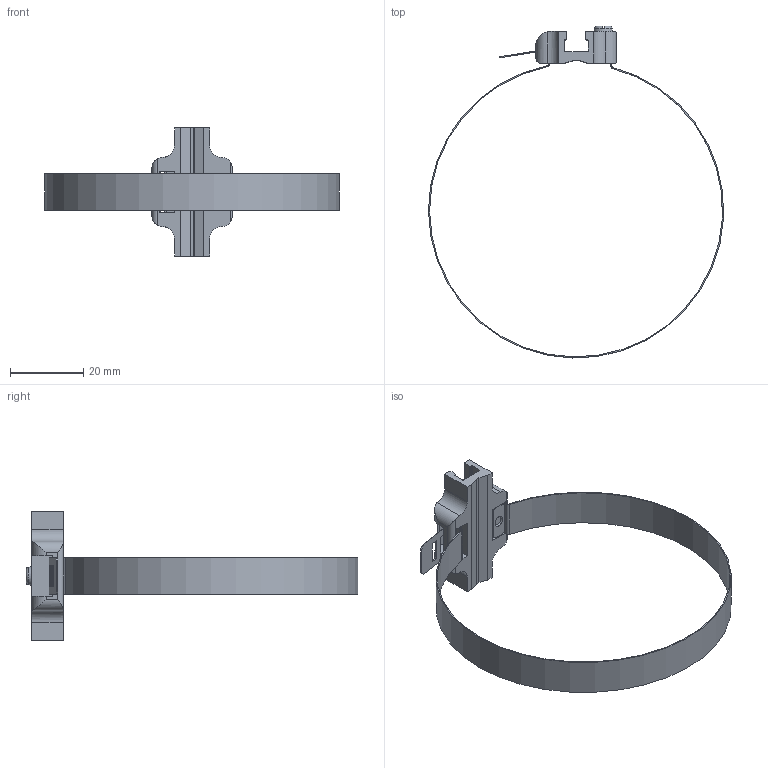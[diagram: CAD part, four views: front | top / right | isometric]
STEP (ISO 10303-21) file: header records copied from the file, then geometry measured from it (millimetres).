
FILE_DESCRIPTION( ( 'STEP AP214' ), ' ' );
FILE_NAME( 'p:/temp/worker_17/3336_884/app_49_02017120213032766545963192d056f_000000_00_00_000000/format_0/SICK BEF-KHZ-RT1-130-1-Bestell-Nr.2077684 (80).stp', '2017-12-02T12:03:28', ( '' ), ( '' ), ' ', 'PARTsolutions', ' ' );
FILE_SCHEMA( ( 'AUTOMOTIVE_DESIGN { 1 0 10303 214 1 1 1 1 }' ) );
Length unit declared in the file: millimetre
Products named in the file (1): _SICK BEF-KHZ-RT1-130-1-Bestell-Nr.2077684 (80)
Bounding box: 80.55 x 90.64 x 35 mm (x, y, z)
Volume: 3624.2 mm3; surface area: 8274.9 mm2
Topology: 1 solids, 1 shells, 128 faces, 363 edges, 240 vertices
Faces by surface type: plane 77, cylinder 49, cone 1, torus 1
Full cylindrical faces by diameter (mm): 3 x2, 3.2 x1
Entity records: 5266 total; most frequent: CARTESIAN_POINT 847, ORIENTED_EDGE 712, DIRECTION 698, EDGE_CURVE 356, LINE 244, VECTOR 244, VERTEX_POINT 238, AXIS2_PLACEMENT_3D 227
